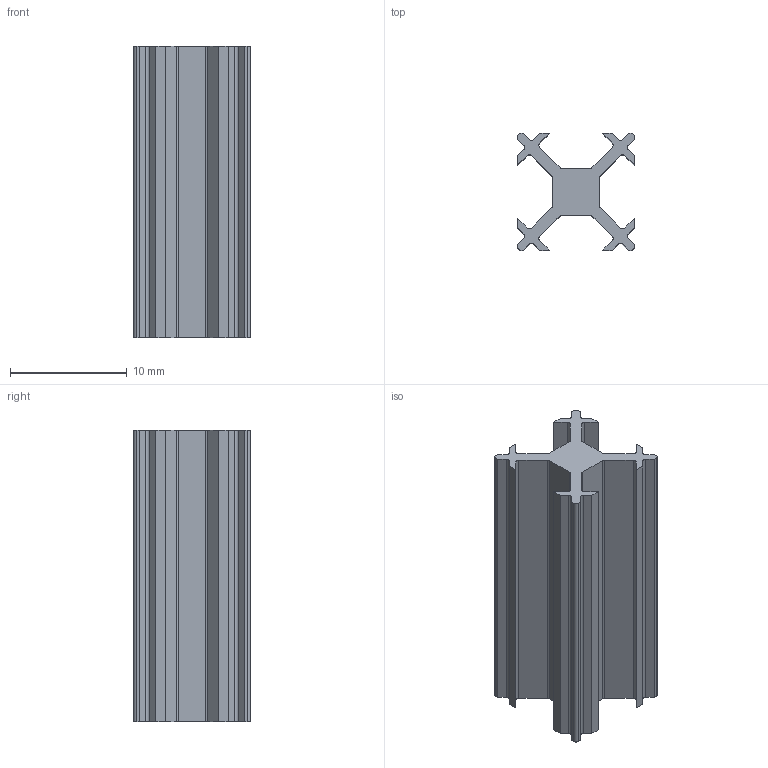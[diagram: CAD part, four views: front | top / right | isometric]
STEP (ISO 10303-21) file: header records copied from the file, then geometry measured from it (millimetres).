
FILE_DESCRIPTION((''),'1');
FILE_NAME('V5-10MM','2009-10-01T',('cad'),(''),'PRO/ENGINEER BY PARAMETRIC TECHNOLOGY CORPORATION, 2000370','PRO/ENGINEER BY PARAMETRIC TECHNOLOGY CORPORATION, 2000370','');
FILE_SCHEMA(('CONFIG_CONTROL_DESIGN'));
Length unit declared in the file: millimetre
Products named in the file (1): V5-10MM
Bounding box: 10 x 10 x 25 mm (x, y, z)
Volume: 929.1 mm3; surface area: 1783.9 mm2
Topology: 1 solids, 1 shells, 82 faces, 240 edges, 160 vertices
Faces by surface type: plane 54, cylinder 28
Entity records: 6670 total; most frequent: CARTESIAN_POINT 1442, DIRECTION 884, VECTOR 608, LINE 608, DEFINITIONAL_REPRESENTATION 480, PCURVE 480, ORIENTED_EDGE 480, TRIMMED_CURVE 424
